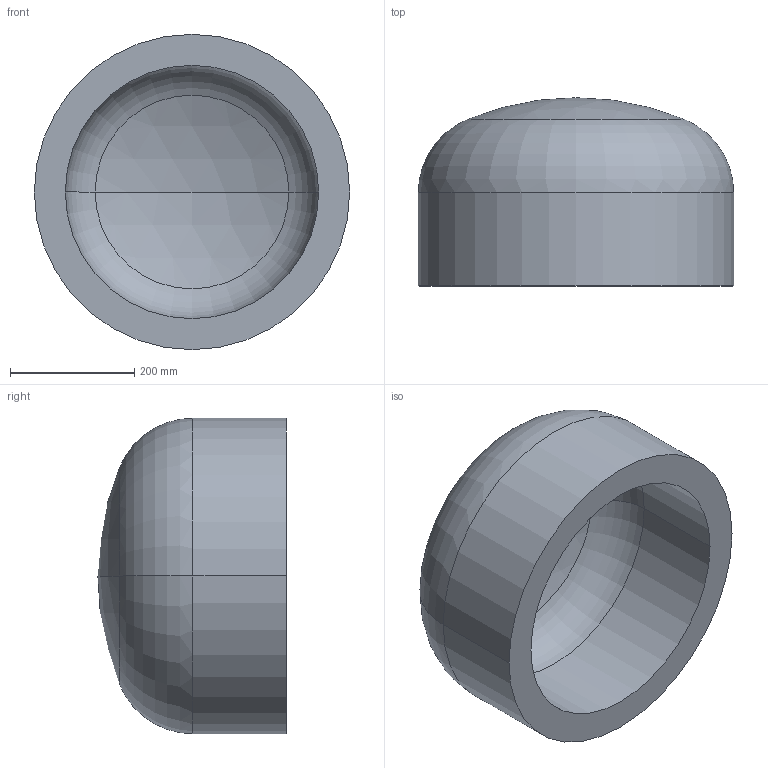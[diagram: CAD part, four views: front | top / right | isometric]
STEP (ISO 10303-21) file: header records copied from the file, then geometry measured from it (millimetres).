
FILE_DESCRIPTION (( 'STEP AP203' ), '1' );
FILE_NAME ('DIN 28013 Korbbogenform_-_Boden DIN 28013 - 508 x 150 - I - s=50.step', '2016-07-01T07:55:41', ( '' ), ( '' ), 'SwSTEP 2.0', 'SolidWorks 2013', '' );
FILE_SCHEMA (( 'CONFIG_CONTROL_DESIGN' ));
Length unit declared in the file: millimetre
Products named in the file (1): DIN 28013 Korbbogenform_-_Boden DIN 28013 - 508 x 150 - I - s=50
Bounding box: 508 x 303.17 x 508 mm (x, y, z)
Volume: 23208559.1 mm3; surface area: 1005520.7 mm2
Topology: 1 solids, 1 shells, 13 faces, 24 edges, 14 vertices
Faces by surface type: torus 4, cylinder 4, sphere 4, plane 1
Entity records: 407 total; most frequent: DIRECTION 72, CARTESIAN_POINT 52, ORIENTED_EDGE 48, AXIS2_PLACEMENT_3D 34, EDGE_CURVE 24, CIRCLE 20, EDGE_LOOP 14, VERTEX_POINT 14
